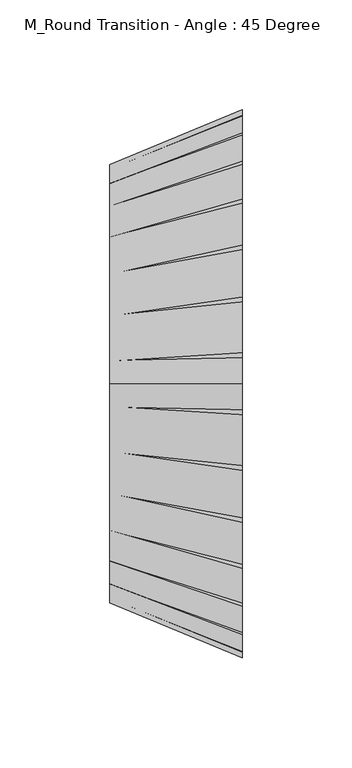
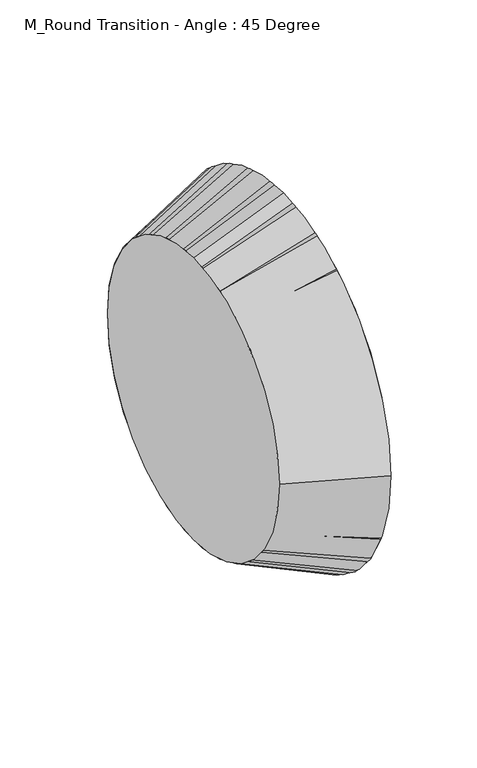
"""IFC4 building model written with IfcOpenShell, lengths in millimetres: duct fitting geometry, M_Round Transition - Angle : 45 Degree."""

from ifc_helpers import new_model, si_unit, frame, origin, place, context, project, spatial, polyline, circle_curve, source, transform, mapped, element, save
from ifc_brep_helpers import plane_surface, revolved_surface, advanced_brep


def m_round_transition_angle_45_degree_f1400fe6(model_context):
    return source(origin(), model_context, "Body", "AdvancedBrep", [
        advanced_brep(
        [(60.3553391, -125.0, 0.0), (60.3553391, 0.0, -125.0), (60.3553391, 125.0, 0.0), (60.3553391, 0.0, 125.0), (0.0, -100.0, 0.0), (0.0, 0.0, 100.0), (0.0, 100.0, 0.0), (0.0, 0.0, -100.0)],
        [
            (0, 1, circle_curve(frame((60.3553391, 0.0, 0.0), z_axis=(1.0, 0.0, 0.0), x_axis=(0.0, -1.0, 0.0)), 125.0)),
            (1, 2, circle_curve(frame((60.3553391, 0.0, 0.0), z_axis=(1.0, 0.0, 0.0), x_axis=(0.0, 0.0, -1.0)), 125.0)),
            (2, 3, circle_curve(frame((60.3553391, 0.0, 0.0), z_axis=(1.0, 0.0, 0.0), x_axis=(0.0, 1.0, 0.0)), 125.0)),
            (3, 0, circle_curve(frame((60.3553391, 0.0, 0.0), z_axis=(1.0, 0.0, 0.0), x_axis=(0.0, 0.0, 1.0)), 125.0)),
            (4, 5, circle_curve(frame((0.0, 0.0, 0.0), z_axis=(-1.0, 0.0, 0.0), x_axis=(0.0, 0.0, 1.0)), 100.0)),
            (5, 6, circle_curve(frame((0.0, 0.0, 0.0), z_axis=(-1.0, 0.0, 0.0), x_axis=(0.0, 1.0, 0.0)), 100.0)),
            (6, 7, circle_curve(frame((0.0, 0.0, 0.0), z_axis=(-1.0, 0.0, 0.0), x_axis=(0.0, 0.0, -1.0)), 100.0)),
            (7, 4, circle_curve(frame((0.0, 0.0, 0.0), z_axis=(-1.0, 0.0, 0.0), x_axis=(0.0, -1.0, 0.0)), 100.0)),
            (7, 1),
            (0, 4),
            (6, 2),
            (5, 3),
        ],
        [
            plane_surface(frame((60.3553391, 0.0, 0.0), z_axis=(1.0, 0.0, 0.0), x_axis=(0.0, 0.0, -1.0))),
            plane_surface(frame((0.0, 0.0, 0.0), z_axis=(-1.0, 0.0, 0.0), x_axis=(0.0, 0.0, -1.0))),
            revolved_surface(polyline([(0.0, 0.0, -99.99999998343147), (60.35533909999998, 0.0, -125.0)]), (-241.4213562, 0.0, 0.0), (1.0, 0.0, 0.0)),
            revolved_surface(polyline([(0.0, 99.99999998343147, 0.0), (60.35533909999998, 125.0, 0.0)]), (-241.4213562, 0.0, 0.0), (1.0, 0.0, 0.0)),
            revolved_surface(polyline([(0.0, 0.0, 99.99999998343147), (60.35533909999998, 0.0, 125.0)]), (-241.4213562, 0.0, 0.0), (1.0, 0.0, 0.0)),
            revolved_surface(polyline([(0.0, -99.99999998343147, 0.0), (60.35533909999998, -125.0, 0.0)]), (-241.4213562, 0.0, 0.0), (1.0, 0.0, 0.0)),
        ],
        [
            (0, [[1, 2, 3, 4]]),
            (1, [[5, 6, 7, 8]]),
            (2, [[-8, 9, -1, 10]]),
            (3, [[-7, 11, -2, -9]]),
            (4, [[-6, 12, -3, -11]]),
            (5, [[-5, -10, -4, -12]]),
        ],
    ),
        advanced_brep(
        [(0.0, -100.0, 0.0), (0.0, 0.0, 100.0), (0.0, 100.0, 0.0), (0.0, 0.0, -100.0), (60.3553391, -125.0, 0.0), (60.3553391, 0.0, -125.0), (60.3553391, 125.0, 0.0), (60.3553391, 0.0, 125.0)],
        [
            (0, 1, circle_curve(frame((0.0, 0.0, 0.0), z_axis=(-1.0, 0.0, 0.0), x_axis=(0.0, -1.0, 0.0)), 100.0)),
            (1, 2, circle_curve(frame((0.0, 0.0, 0.0), z_axis=(-1.0, 0.0, 0.0), x_axis=(0.0, 0.0, 1.0)), 100.0)),
            (2, 3, circle_curve(frame((0.0, 0.0, 0.0), z_axis=(-1.0, 0.0, 0.0), x_axis=(0.0, 1.0, 0.0)), 100.0)),
            (3, 0, circle_curve(frame((0.0, 0.0, 0.0), z_axis=(-1.0, 0.0, 0.0), x_axis=(0.0, 0.0, -1.0)), 100.0)),
            (4, 5, circle_curve(frame((60.3553391, 0.0, 0.0), z_axis=(1.0, 0.0, 0.0), x_axis=(0.0, 0.0, -1.0)), 125.0)),
            (5, 6, circle_curve(frame((60.3553391, 0.0, 0.0), z_axis=(1.0, 0.0, 0.0), x_axis=(0.0, 1.0, 0.0)), 125.0)),
            (6, 7, circle_curve(frame((60.3553391, 0.0, 0.0), z_axis=(1.0, 0.0, 0.0), x_axis=(0.0, 0.0, 1.0)), 125.0)),
            (7, 4, circle_curve(frame((60.3553391, 0.0, 0.0), z_axis=(1.0, 0.0, 0.0), x_axis=(0.0, -1.0, 0.0)), 125.0)),
            (7, 1),
            (0, 4),
            (6, 2),
            (5, 3),
        ],
        [
            plane_surface(frame((0.0, 0.0, 0.0), z_axis=(-1.0, 0.0, 0.0), x_axis=(0.0, 0.0, -1.0))),
            plane_surface(frame((60.3553391, 0.0, 0.0), z_axis=(1.0, 0.0, 0.0), x_axis=(0.0, 0.0, -1.0))),
            revolved_surface(polyline([(0.0, -99.99999998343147, 0.0), (60.35533909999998, -125.0, 0.0)]), (-241.4213562, 0.0, 0.0), (1.0, 0.0, 0.0)),
            revolved_surface(polyline([(0.0, 0.0, 99.99999998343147), (60.35533909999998, 0.0, 125.0)]), (-241.4213562, 0.0, 0.0), (1.0, 0.0, 0.0)),
            revolved_surface(polyline([(0.0, 99.99999998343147, 0.0), (60.35533909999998, 125.0, 0.0)]), (-241.4213562, 0.0, 0.0), (1.0, 0.0, 0.0)),
            revolved_surface(polyline([(0.0, 0.0, -99.99999998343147), (60.35533909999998, 0.0, -125.0)]), (-241.4213562, 0.0, 0.0), (1.0, 0.0, 0.0)),
        ],
        [
            (0, [[1, 2, 3, 4]]),
            (1, [[5, 6, 7, 8]]),
            (2, [[-8, 9, -1, 10]]),
            (3, [[-7, 11, -2, -9]]),
            (4, [[-6, 12, -3, -11]]),
            (5, [[-5, -10, -4, -12]]),
        ],
    ),
        advanced_brep(
        [(60.3553391, -125.0, 0.0), (60.3553391, 125.0, 0.0), (0.0, -100.0, 0.0), (0.0, 100.0, 0.0)],
        [
            (0, 1, circle_curve(frame((60.3553391, 0.0, 0.0), z_axis=(1.0, 0.0, 0.0), x_axis=(0.0, -1.0, 0.0)), 125.0)),
            (1, 0, circle_curve(frame((60.3553391, 0.0, 0.0), z_axis=(1.0, 0.0, 0.0), x_axis=(0.0, 1.0, 0.0)), 125.0)),
            (2, 3, circle_curve(frame((0.0, 0.0, 0.0), z_axis=(-1.0, 0.0, 0.0), x_axis=(0.0, 1.0, 0.0)), 100.0)),
            (3, 2, circle_curve(frame((0.0, 0.0, 0.0), z_axis=(-1.0, 0.0, 0.0), x_axis=(0.0, -1.0, 0.0)), 100.0)),
            (3, 1),
            (0, 2),
        ],
        [
            plane_surface(frame((60.3553391, 0.0, 0.0), z_axis=(1.0, 0.0, 0.0), x_axis=(0.0, 0.0, -1.0))),
            plane_surface(frame((0.0, 0.0, 0.0), z_axis=(-1.0, 0.0, 0.0), x_axis=(0.0, 0.0, -1.0))),
            revolved_surface(polyline([(0.0, 99.99999998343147, 0.0), (60.35533909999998, 125.0, 0.0)]), (-241.4213562, 0.0, 0.0), (1.0, 0.0, 0.0)),
            revolved_surface(polyline([(0.0, -99.99999998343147, 0.0), (60.35533909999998, -125.0, 0.0)]), (-241.4213562, 0.0, 0.0), (1.0, 0.0, 0.0)),
        ],
        [
            (0, [[1, 2]]),
            (1, [[3, 4]]),
            (2, [[-4, 5, -1, 6]]),
            (3, [[-3, -6, -2, -5]]),
        ],
    ),
    ])


if __name__ == "__main__":
    model = new_model("IFC4")
    model_context = context("Model", 3, world=origin())
    ifc_project = project(units=[si_unit("LENGTHUNIT", "METRE", prefix="MILLI")], contexts=[model_context])
    site = spatial("IfcSite", under=ifc_project)
    building = spatial("IfcBuilding", under=site)
    placement = place(None, origin())
    m_round_transition_angle_45_degree_shape = m_round_transition_angle_45_degree_f1400fe6(model_context)
    element("IfcDuctFitting", 1, ObjectType="M_Round Transition - Angle : 45 Degree", at=placement, inside=building, context=model_context, shape_type="MappedRepresentation", body=[
        mapped(m_round_transition_angle_45_degree_shape, transform((0.0, 0.0, 0.0), x_axis=(1.0, 0.0, 0.0), y_axis=(0.0, 1.0, 0.0), z_axis=(0.0, 0.0, 1.0))),
    ])
    save(model, "model.ifc")
